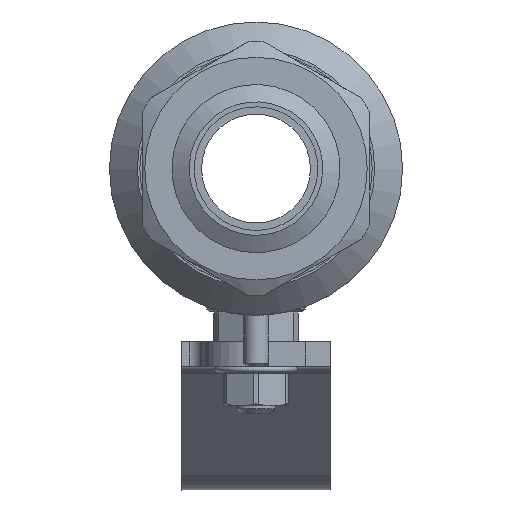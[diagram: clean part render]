
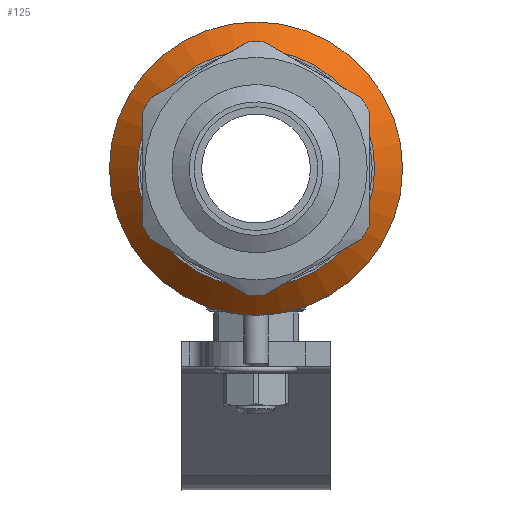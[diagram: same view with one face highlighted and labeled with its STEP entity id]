
A CAD part, left-side view. The second image highlights one B-rep face of the part: STEP entity #125.
In plain terms, the highlighted conical face has half-angle 45 degrees and reference radius 26.825 mm.
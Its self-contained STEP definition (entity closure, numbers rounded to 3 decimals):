
#125=ADVANCED_FACE('',(#1209),#1211,.T.);
#1209=FACE_OUTER_BOUND('',#1210,.T.);
#1210=EDGE_LOOP('',(#2679,#2680,#2681,#2682));
#1211=CONICAL_SURFACE('',#1212,26.825,0.785);
#1212=AXIS2_PLACEMENT_3D('',#1213,#1214,#1215);
#1213=CARTESIAN_POINT('',(-21.175,0.,0.));
#1214=DIRECTION('',(1.,0.,0.));
#1215=DIRECTION('',(0.,1.,0.));
#2679=ORIENTED_EDGE('',*,*,#4002,.T.);
#2680=ORIENTED_EDGE('',*,*,#3993,.T.);
#2681=ORIENTED_EDGE('',*,*,#4002,.F.);
#2682=ORIENTED_EDGE('',*,*,#4003,.F.);
#3993=EDGE_CURVE('',#4477,#4477,#4479,.T.);
#4002=EDGE_CURVE('',#4493,#4477,#4494,.T.);
#4003=EDGE_CURVE('',#4493,#4493,#4495,.T.);
#4477=VERTEX_POINT('',#6156);
#4479=CIRCLE('',#6160,29.65);
#4493=VERTEX_POINT('',#6198);
#4494=LINE('',#6199,#6200);
#4495=CIRCLE('',#6202,24.);
#6156=CARTESIAN_POINT('',(-18.35,-29.65,0.));
#6160=AXIS2_PLACEMENT_3D('',#6161,#6162,#6163);
#6161=CARTESIAN_POINT('',(-18.35,0.,0.));
#6162=DIRECTION('',(-1.,0.,0.));
#6163=DIRECTION('',(0.,-1.,0.));
#6198=CARTESIAN_POINT('',(-24.,-24.,0.));
#6199=CARTESIAN_POINT('',(-24.,-24.,0.));
#6200=VECTOR('',#6201,1.);
#6201=DIRECTION('',(0.707,-0.707,0.));
#6202=AXIS2_PLACEMENT_3D('',#6203,#6204,#6205);
#6203=CARTESIAN_POINT('',(-24.,0.,0.));
#6204=DIRECTION('',(-1.,0.,0.));
#6205=DIRECTION('',(0.,-1.,0.));
